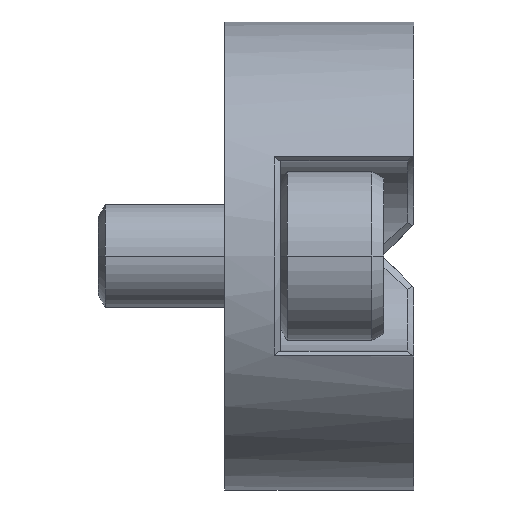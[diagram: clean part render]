
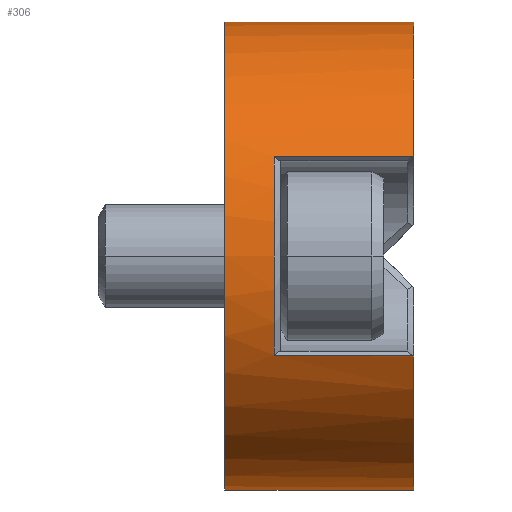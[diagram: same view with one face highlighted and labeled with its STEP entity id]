
A CAD part, left-side view. The second image highlights one B-rep face of the part: STEP entity #306.
In plain terms, the highlighted cylindrical face has radius 7.811 mm (diameter 15.621 mm), a partial arc.
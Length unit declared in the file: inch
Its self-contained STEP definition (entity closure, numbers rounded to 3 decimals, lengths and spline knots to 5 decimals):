
#41 = DIRECTION ( 'NONE',  ( 0., 0., -1. ) ) ;
#43 = CARTESIAN_POINT ( 'NONE',  ( 0., 0.248, 0. ) ) ;
#52 = DIRECTION ( 'NONE',  ( 0., -1., 0. ) ) ;
#62 = VECTOR ( 'NONE', #1106, 39.37008 ) ;
#64 = LINE ( 'NONE', #1109, #62 ) ;
#85 = VECTOR ( 'NONE', #1392, 39.37008 ) ;
#86 = LINE ( 'NONE', #1409, #101 ) ;
#87 = CIRCLE ( 'NONE', #317, 0.3075 ) ;
#95 = CIRCLE ( 'NONE', #321, 0.3075 ) ;
#97 = LINE ( 'NONE', #384, #108 ) ;
#101 = VECTOR ( 'NONE', #1406, 39.37008 ) ;
#104 = LINE ( 'NONE', #1393, #85 ) ;
#108 = VECTOR ( 'NONE', #380, 39.37008 ) ;
#112 = CIRCLE ( 'NONE', #167, 0.3075 ) ;
#115 = CIRCLE ( 'NONE', #1026, 0.3075 ) ;
#167 = AXIS2_PLACEMENT_3D ( 'NONE', #1413, #1410, #1411 ) ;
#175 = AXIS2_PLACEMENT_3D ( 'NONE', #43, #52, #41 ) ;
#306 = ADVANCED_FACE ( 'NONE', ( #1875 ), #1640, .T. ) ;
#317 = AXIS2_PLACEMENT_3D ( 'NONE', #1404, #1399, #1398 ) ;
#321 = AXIS2_PLACEMENT_3D ( 'NONE', #939, #949, #950 ) ;
#380 = DIRECTION ( 'NONE',  ( 0., -1., 0. ) ) ;
#384 = CARTESIAN_POINT ( 'NONE',  ( 0., 0.248, -0.3075 ) ) ;
#690 = EDGE_CURVE ( 'NONE', #1448, #905, #104, .T. ) ;
#692 = EDGE_CURVE ( 'NONE', #905, #1452, #112, .T. ) ;
#693 = EDGE_CURVE ( 'NONE', #1427, #1448, #2092, .T. ) ;
#695 = EDGE_CURVE ( 'NONE', #1479, #1433, #115, .T. ) ;
#696 = EDGE_CURVE ( 'NONE', #1452, #920, #86, .T. ) ;
#697 = EDGE_CURVE ( 'NONE', #1470, #1427, #87, .T. ) ;
#698 = EDGE_CURVE ( 'NONE', #920, #1447, #2093, .T. ) ;
#705 = EDGE_CURVE ( 'NONE', #1447, #1435, #95, .T. ) ;
#707 = EDGE_CURVE ( 'NONE', #1479, #1470, #97, .T. ) ;
#713 = EDGE_CURVE ( 'NONE', #1433, #1435, #64, .T. ) ;
#905 = VERTEX_POINT ( 'NONE', #1145 ) ;
#920 = VERTEX_POINT ( 'NONE', #1158 ) ;
#939 = CARTESIAN_POINT ( 'NONE',  ( 0., 0., 0. ) ) ;
#949 = DIRECTION ( 'NONE',  ( 0., 1., 0. ) ) ;
#950 = DIRECTION ( 'NONE',  ( 0., 0., 1. ) ) ;
#1026 = AXIS2_PLACEMENT_3D ( 'NONE', #1383, #1400, #1405 ) ;
#1106 = DIRECTION ( 'NONE',  ( 0., -1., 0. ) ) ;
#1109 = CARTESIAN_POINT ( 'NONE',  ( 0., 0.248, 0.3075 ) ) ;
#1145 = CARTESIAN_POINT ( 'NONE',  ( -0.2785, 0.18281, -0.13036 ) ) ;
#1158 = CARTESIAN_POINT ( 'NONE',  ( -0.2785, 0.00245, 0.13036 ) ) ;
#1380 = CARTESIAN_POINT ( 'NONE',  ( -0.27812, 0.00163, -0.13118 ) ) ;
#1381 = CARTESIAN_POINT ( 'NONE',  ( -0.2785, 0.00245, -0.13036 ) ) ;
#1383 = CARTESIAN_POINT ( 'NONE',  ( 0., 0.248, 0. ) ) ;
#1385 = CARTESIAN_POINT ( 'NONE',  ( -0.27773, 0.00081, -0.132 ) ) ;
#1392 = DIRECTION ( 'NONE',  ( 0., 1., 0. ) ) ;
#1393 = CARTESIAN_POINT ( 'NONE',  ( -0.2785, 0.248, -0.13036 ) ) ;
#1398 = DIRECTION ( 'NONE',  ( 0., 0., 1. ) ) ;
#1399 = DIRECTION ( 'NONE',  ( 0., 1., 0. ) ) ;
#1400 = DIRECTION ( 'NONE',  ( 0., 1., 0. ) ) ;
#1401 = CARTESIAN_POINT ( 'NONE',  ( -0.27734, 0., 0.13281 ) ) ;
#1402 = CARTESIAN_POINT ( 'NONE',  ( -0.27812, 0.00163, 0.13118 ) ) ;
#1403 = CARTESIAN_POINT ( 'NONE',  ( -0.2785, 0.00245, 0.13036 ) ) ;
#1404 = CARTESIAN_POINT ( 'NONE',  ( 0., 0., 0. ) ) ;
#1405 = DIRECTION ( 'NONE',  ( 0., 0., 1. ) ) ;
#1406 = DIRECTION ( 'NONE',  ( 0., -1., 0. ) ) ;
#1407 = CARTESIAN_POINT ( 'NONE',  ( -0.27773, 0.00081, 0.132 ) ) ;
#1409 = CARTESIAN_POINT ( 'NONE',  ( -0.2785, 0.248, 0.13036 ) ) ;
#1410 = DIRECTION ( 'NONE',  ( 0., 1., 0. ) ) ;
#1411 = DIRECTION ( 'NONE',  ( 0., 0., 1. ) ) ;
#1412 = CARTESIAN_POINT ( 'NONE',  ( -0.27734, 0., -0.13281 ) ) ;
#1413 = CARTESIAN_POINT ( 'NONE',  ( 0., 0.18281, 0. ) ) ;
#1427 = VERTEX_POINT ( 'NONE', #1558 ) ;
#1433 = VERTEX_POINT ( 'NONE', #1576 ) ;
#1435 = VERTEX_POINT ( 'NONE', #1545 ) ;
#1447 = VERTEX_POINT ( 'NONE', #1571 ) ;
#1448 = VERTEX_POINT ( 'NONE', #1563 ) ;
#1452 = VERTEX_POINT ( 'NONE', #1525 ) ;
#1470 = VERTEX_POINT ( 'NONE', #1522 ) ;
#1479 = VERTEX_POINT ( 'NONE', #1548 ) ;
#1522 = CARTESIAN_POINT ( 'NONE',  ( 0., 0., -0.3075 ) ) ;
#1525 = CARTESIAN_POINT ( 'NONE',  ( -0.2785, 0.18281, 0.13036 ) ) ;
#1545 = CARTESIAN_POINT ( 'NONE',  ( 0., 0., 0.3075 ) ) ;
#1548 = CARTESIAN_POINT ( 'NONE',  ( 0., 0.248, -0.3075 ) ) ;
#1558 = CARTESIAN_POINT ( 'NONE',  ( -0.27734, 0., -0.13281 ) ) ;
#1563 = CARTESIAN_POINT ( 'NONE',  ( -0.2785, 0.00245, -0.13036 ) ) ;
#1571 = CARTESIAN_POINT ( 'NONE',  ( -0.27734, 0., 0.13281 ) ) ;
#1576 = CARTESIAN_POINT ( 'NONE',  ( 0., 0.248, 0.3075 ) ) ;
#1640 = CYLINDRICAL_SURFACE ( 'NONE', #175, 0.3075 ) ;
#1679 = ORIENTED_EDGE ( 'NONE', *, *, #707, .T. ) ;
#1680 = ORIENTED_EDGE ( 'NONE', *, *, #695, .F. ) ;
#1682 = ORIENTED_EDGE ( 'NONE', *, *, #713, .F. ) ;
#1866 = EDGE_LOOP ( 'NONE', ( #1682, #1680, #1679, #2059, #2064, #2076, #2091, #2086, #2085, #2050 ) ) ;
#1875 = FACE_OUTER_BOUND ( 'NONE', #1866, .T. ) ;
#2050 = ORIENTED_EDGE ( 'NONE', *, *, #705, .T. ) ;
#2059 = ORIENTED_EDGE ( 'NONE', *, *, #697, .T. ) ;
#2064 = ORIENTED_EDGE ( 'NONE', *, *, #693, .T. ) ;
#2076 = ORIENTED_EDGE ( 'NONE', *, *, #690, .T. ) ;
#2085 = ORIENTED_EDGE ( 'NONE', *, *, #698, .T. ) ;
#2086 = ORIENTED_EDGE ( 'NONE', *, *, #696, .T. ) ;
#2091 = ORIENTED_EDGE ( 'NONE', *, *, #692, .T. ) ;
#2092 =( BOUNDED_CURVE ( )  B_SPLINE_CURVE ( 3, ( #1412, #1385, #1380, #1381 ),
 .UNSPECIFIED., .F., .T. ) 
 B_SPLINE_CURVE_WITH_KNOTS ( ( 4, 4 ),
 ( 1.12419, 1.133 ),
 .UNSPECIFIED. ) 
 CURVE ( )  GEOMETRIC_REPRESENTATION_ITEM ( )  RATIONAL_B_SPLINE_CURVE ( ( 1., 1., 1., 1. ) ) 
 REPRESENTATION_ITEM ( '' )  );
#2093 =( BOUNDED_CURVE ( )  B_SPLINE_CURVE ( 3, ( #1403, #1402, #1407, #1401 ),
 .UNSPECIFIED., .F., .F. ) 
 B_SPLINE_CURVE_WITH_KNOTS ( ( 4, 4 ),
 ( 5.15019, 5.159 ),
 .UNSPECIFIED. ) 
 CURVE ( )  GEOMETRIC_REPRESENTATION_ITEM ( )  RATIONAL_B_SPLINE_CURVE ( ( 1., 1., 1., 1. ) ) 
 REPRESENTATION_ITEM ( '' )  );
